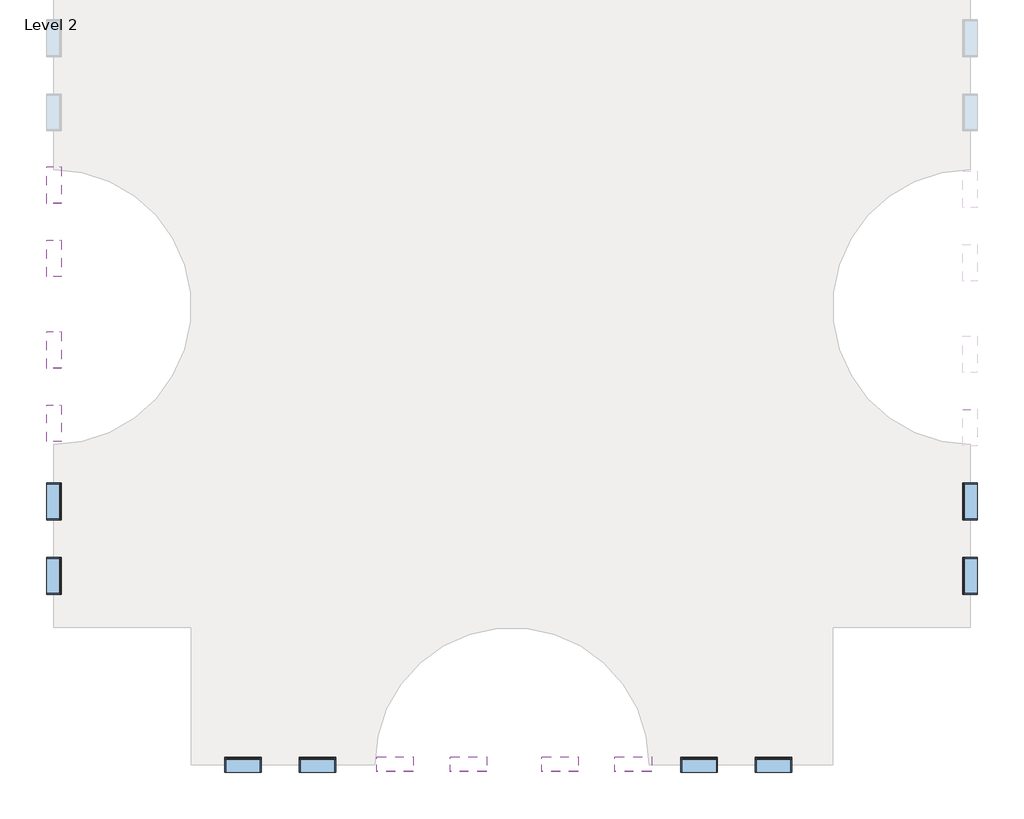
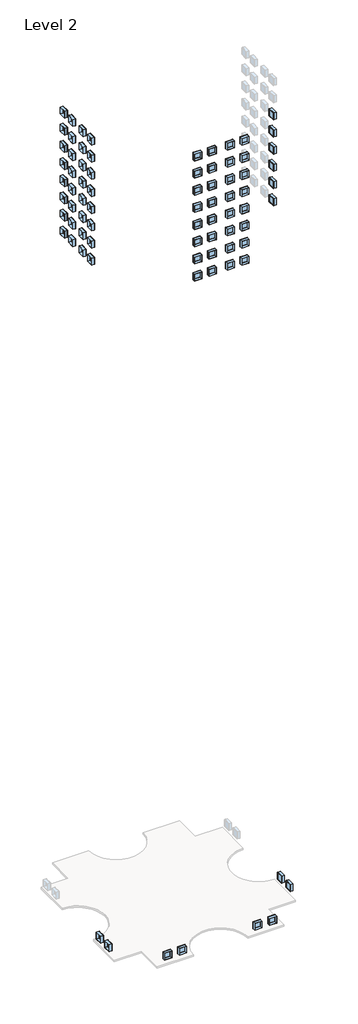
# One storey, part 1 of 2: 78 windows.
"""IFC4 building model written with IfcOpenShell, lengths in millimetres."""

import ifcopenshell
import ifcopenshell.guid

model = None  # the IFC model being written
_history = None  # IfcOwnerHistory: only IFC2X3 demands one
_inside = {}  # id of a spatial element -> (the spatial element, [elements in it])
_under = {}  # id of a project, library or spatial element -> (it, [spatial elements below it])
_declared = {}  # id of a project -> (the project, [libraries it declares])
_typed = {}  # id of a type object -> (the type object, [elements of that type])
_made_of = {}  # id of a material, layer set ... -> (it, [elements and type objects made of it])


def new_model(schema):
    """Start an empty IFC model of exactly this schema.

    Asked for "IFC4X3", IfcOpenShell would pick the latest addendum, in which some entities
    have other attributes; the version numbers below select the first issue.
    IFC2X3 requires an IfcOwnerHistory on every rooted entity: one is made here for all.
    """
    global model, _history
    if schema == "IFC4X3":
        model = ifcopenshell.file(schema_version=(4, 3, 0, 0))
    else:
        model = ifcopenshell.file(schema=schema)
    _inside.clear()
    _under.clear()
    _declared.clear()
    _typed.clear()
    _made_of.clear()
    _history = None
    if model.schema == "IFC2X3":
        org = make("IfcOrganization", Name="unknown")
        user = make(
            "IfcPersonAndOrganization",
            ThePerson=make("IfcPerson", FamilyName="unknown"),
            TheOrganization=org,
        )
        app = make(
            "IfcApplication",
            ApplicationDeveloper=org,
            Version="unknown",
            ApplicationFullName="unknown",
            ApplicationIdentifier="unknown",
        )
        _history = make(
            "IfcOwnerHistory",
            OwningUser=user,
            OwningApplication=app,
            ChangeAction="ADDED",
            CreationDate=0,
        )
    return model


def make(cls, **values):
    """One entity of the class cls with the attributes given. An attribute that is None is left unset."""
    return model.create_entity(
        cls, **{name: value for name, value in values.items() if value is not None}
    )


def rooted(cls, **values):
    """An entity with a GlobalId (a new one), such as an element, a storey or a relation."""
    return make(cls, GlobalId=ifcopenshell.guid.new(), OwnerHistory=_history, **values)


def si_unit(unit_type, name, prefix=None):
    """IfcSIUnit, for example si_unit("LENGTHUNIT", "METRE", prefix="MILLI")."""
    return make("IfcSIUnit", UnitType=unit_type, Prefix=prefix, Name=name)


def assignment(units):
    """IfcUnitAssignment: the units of a project."""
    return None if units is None else make("IfcUnitAssignment", Units=units)


def point(xyz):
    """IfcCartesianPoint."""
    return None if xyz is None else make("IfcCartesianPoint", Coordinates=xyz)


def direction(xyz):
    """IfcDirection."""
    return None if xyz is None else make("IfcDirection", DirectionRatios=xyz)


def frame(location, z_axis=None, x_axis=None):
    """IfcAxis2Placement3D, a coordinate frame: its origin and axes. An axis left out is left unset."""
    return make(
        "IfcAxis2Placement3D",
        Location=point(location),
        Axis=direction(z_axis),
        RefDirection=direction(x_axis),
    )


def origin():
    """The frame at (0, 0, 0) with its axes left unset."""
    return frame((0.0, 0.0, 0.0))


def place(relative_to, where):
    """IfcLocalPlacement: puts the frame where relative to a parent placement (None: the world)."""
    return make(
        "IfcLocalPlacement", PlacementRelTo=relative_to, RelativePlacement=where
    )


def context(
    kind, dimensions, precision=None, world=None, true_north=None, identifier=None
):
    """IfcGeometricRepresentationContext, for example the 3D "Model" context."""
    return make(
        "IfcGeometricRepresentationContext",
        ContextIdentifier=identifier,
        ContextType=kind,
        CoordinateSpaceDimension=dimensions,
        Precision=precision,
        WorldCoordinateSystem=world,
        TrueNorth=true_north,
    )


def project(units=None, contexts=None):
    """IfcProject with its units and contexts."""
    return rooted(
        "IfcProject",
        Name="project",
        RepresentationContexts=contexts,
        UnitsInContext=assignment(units),
    )


def spatial(cls, under=None, at=None, **own):
    """A site, building, storey or space (cls), placed at a placement, below another one or the project."""
    s = rooted(cls, ObjectPlacement=at, **own)
    if under is not None:
        _under.setdefault(under.id(), (under, []))[1].append(s)
    return s


def polyline(points):
    """IfcPolyline through the points."""
    return make("IfcPolyline", Points=[point(p) for p in points])


def outline(outer, holes=None, kind="AREA"):
    """IfcArbitraryClosedProfileDef: a profile drawn as a closed curve; with holes, ...WithVoids."""
    if holes is None:
        return make("IfcArbitraryClosedProfileDef", ProfileType=kind, OuterCurve=outer)
    return make(
        "IfcArbitraryProfileDefWithVoids",
        ProfileType=kind,
        OuterCurve=outer,
        InnerCurves=holes,
    )


def extrude(swept, where, along, depth):
    """IfcExtrudedAreaSolid: the profile swept, set in the frame where, extruded along a direction by depth."""
    return make(
        "IfcExtrudedAreaSolid",
        SweptArea=swept,
        Position=where,
        ExtrudedDirection=direction(along),
        Depth=depth,
    )


def shape(context_of_items, identifier, shape_type, items):
    """IfcShapeRepresentation: the items that make up one representation, for example the "Body"."""
    return make(
        "IfcShapeRepresentation",
        ContextOfItems=context_of_items,
        RepresentationIdentifier=identifier,
        RepresentationType=shape_type,
        Items=items,
    )


def source(mapping_origin, context_of_items, identifier, shape_type, items):
    """IfcRepresentationMap: a shape defined once, which mapped items show again and again."""
    return make(
        "IfcRepresentationMap",
        MappingOrigin=mapping_origin,
        MappedRepresentation=shape(context_of_items, identifier, shape_type, items),
    )


def transform(
    local_origin,
    x_axis=None,
    y_axis=None,
    z_axis=None,
    scale=None,
    scale2=None,
    scale3=None,
    uniform=True,
):
    """IfcCartesianTransformationOperator3D, or its non-uniform kind. x_axis, y_axis, z_axis: its Axis1, 2, 3."""
    if uniform:
        return make(
            "IfcCartesianTransformationOperator3D",
            Axis1=direction(x_axis),
            Axis2=direction(y_axis),
            LocalOrigin=point(local_origin),
            Scale=scale,
            Axis3=direction(z_axis),
        )
    return make(
        "IfcCartesianTransformationOperator3DnonUniform",
        Axis1=direction(x_axis),
        Axis2=direction(y_axis),
        LocalOrigin=point(local_origin),
        Scale=scale,
        Axis3=direction(z_axis),
        Scale2=scale2,
        Scale3=scale3,
    )


def mapped(mapping_source, mapping_target):
    """IfcMappedItem: shows the shape of a source again, moved by a transform."""
    return make(
        "IfcMappedItem", MappingSource=mapping_source, MappingTarget=mapping_target
    )


def made_of(thing, what):
    """Note that an element or type object is made of a material, layer set ...; save() writes the relation."""
    if what is not None:
        _made_of.setdefault(what.id(), (what, []))[1].append(thing)
    return thing


def element(
    cls,
    number,
    at=None,
    inside=None,
    cuts=None,
    type_object=None,
    material=None,
    context=None,
    identifier="Body",
    shape_type=None,
    held_by="IfcProductDefinitionShape",
    body=None,
    shapes=None,
    **own,
):
    """One element of the class cls, such as IfcWall. Its Tag is "e" and its number.

    at: its placement. inside: the storey or other place that contains it. cuts: it is an
    opening in that element (IfcRelVoidsElement). A single representation is given by context,
    identifier, shape_type and body (its items); several are given by shapes. held_by: the class
    of the entity that holds the representations. save() writes the other relations.
    """
    e = rooted(cls, Tag="e%d" % number, ObjectPlacement=at, **own)
    if body is not None:
        shapes = [shape(context, identifier, shape_type, body)]
    if shapes is not None:
        e.Representation = make(held_by, Representations=shapes)
    if inside is not None:
        _inside.setdefault(inside.id(), (inside, []))[1].append(e)
    if cuts is not None:
        rooted(
            "IfcRelVoidsElement", RelatingBuildingElement=cuts, RelatedOpeningElement=e
        )
    if type_object is not None:
        _typed.setdefault(type_object.id(), (type_object, []))[1].append(e)
    return made_of(e, material)


def aggregate(whole, parts):
    """IfcRelAggregates: a whole, such as a stair, and the parts it consists of."""
    return rooted("IfcRelAggregates", RelatingObject=whole, RelatedObjects=parts)


def save(model, path):
    """Write the relations noted so far, then the file.

    IfcRelAggregates (storeys below a building ...), IfcRelContainedInSpatialStructure (elements
    in a storey), IfcRelDefinesByType, IfcRelAssociatesMaterial and IfcRelDeclares: one each for
    every whole, place, type object, material and project.
    """
    for whole, parts in _under.values():
        aggregate(whole, parts)
    for where, things in _inside.values():
        rooted(
            "IfcRelContainedInSpatialStructure",
            RelatedElements=things,
            RelatingStructure=where,
        )
    for kind, things in _typed.values():
        rooted("IfcRelDefinesByType", RelatedObjects=things, RelatingType=kind)
    for what, things in _made_of.values():
        rooted("IfcRelAssociatesMaterial", RelatedObjects=things, RelatingMaterial=what)
    for by, libraries in _declared.values():
        rooted("IfcRelDeclares", RelatingContext=by, RelatedDefinitions=libraries)
    model.write(path)


def window_d0035ecf(model_context):
    return source(origin(), model_context, "Body", "SweptSolid", [
        extrude(outline(polyline([(508.0, 200.025), (-584.2, 200.025), (-584.2, 212.725), (508.0, 212.725), (508.0, 200.025)])), frame((0.0, 0.0, 977.9), z_axis=(0.0, 0.0, 1.0), x_axis=(1.0, 0.0, 0.0)), (0.0, 0.0, 1.0), 1092.2),
        extrude(outline(polyline([(2114.55, -628.65), (933.45, -628.65), (933.45, 552.45), (2114.55, 552.45), (2114.55, -628.65)]), holes=[polyline([(2070.1, -584.2), (2070.1, 508.0), (977.9, 508.0), (977.9, -584.2), (2070.1, -584.2)])]), frame((0.0, 184.15, 0.0), z_axis=(0.0, 1.0, 0.0), x_axis=(0.0, 0.0, 1.0)), (0.0, 0.0, 1.0), 44.45),
        extrude(outline(polyline([(2133.6, -647.7), (914.4, -647.7), (914.4, 571.5), (2133.6, 571.5), (2133.6, -647.7)]), holes=[polyline([(2101.85, -615.95), (2101.85, 539.75), (946.15, 539.75), (946.15, -615.95), (2101.85, -615.95)])]), frame((0.0, -247.65, 0.0), z_axis=(0.0, 1.0, 0.0), x_axis=(0.0, 0.0, 1.0)), (0.0, 0.0, 1.0), 431.8),
        extrude(outline(polyline([(2133.6, 571.5), (2133.6, -647.7), (914.4, -647.7), (914.4, 571.5), (2133.6, 571.5)]), holes=[polyline([(2114.55, 552.45), (933.45, 552.45), (933.45, -628.65), (2114.55, -628.65), (2114.55, 552.45)])]), frame((0.0, 184.15, 0.0), z_axis=(0.0, 1.0, 0.0), x_axis=(0.0, 0.0, 1.0)), (0.0, 0.0, 1.0), 63.5),
    ])


def window_d434eb62(model_context):
    return source(origin(), model_context, "Body", "SweptSolid", [
        extrude(outline(polyline([(508.0, -200.025), (508.0, -212.725), (-584.2, -212.725), (-584.2, -200.025), (508.0, -200.025)])), frame((0.0, 0.0, 977.9), z_axis=(0.0, 0.0, 1.0), x_axis=(1.0, 0.0, 0.0)), (0.0, 0.0, 1.0), 1092.2),
        extrude(outline(polyline([(2114.55, -628.65), (933.45, -628.65), (933.45, 552.45), (2114.55, 552.45), (2114.55, -628.65)]), holes=[polyline([(2070.1, -584.2), (2070.1, 508.0), (977.9, 508.0), (977.9, -584.2), (2070.1, -584.2)])]), frame((0.0, -228.6, 0.0), z_axis=(0.0, 1.0, 0.0), x_axis=(0.0, 0.0, 1.0)), (0.0, 0.0, 1.0), 44.45),
        extrude(outline(polyline([(2133.6, -647.7), (914.4, -647.7), (914.4, 571.5), (2133.6, 571.5), (2133.6, -647.7)]), holes=[polyline([(2101.85, -615.95), (2101.85, 539.75), (946.15, 539.75), (946.15, -615.95), (2101.85, -615.95)])]), frame((0.0, -184.15, 0.0), z_axis=(0.0, 1.0, 0.0), x_axis=(0.0, 0.0, 1.0)), (0.0, 0.0, 1.0), 431.8),
        extrude(outline(polyline([(2133.6, 571.5), (2133.6, -647.7), (914.4, -647.7), (914.4, 571.5), (2133.6, 571.5)]), holes=[polyline([(2114.55, 552.45), (933.45, 552.45), (933.45, -628.65), (2114.55, -628.65), (2114.55, 552.45)])]), frame((0.0, -247.65, 0.0), z_axis=(0.0, 1.0, 0.0), x_axis=(0.0, 0.0, 1.0)), (0.0, 0.0, 1.0), 63.5),
    ])


model = new_model("IFC4")

# Units and contexts
model_context = context("Model", 3, world=origin())
ifc_project = project(units=[si_unit("LENGTHUNIT", "METRE", prefix="MILLI")], contexts=[model_context])

# Site, building, storey
site = spatial("IfcSite", under=ifc_project)
building = spatial("IfcBuilding", under=site)
storey = spatial("IfcBuildingStorey", under=building, Name="Level 2", Elevation=3048.0)

# Windows
placement = place(None, origin())
window_shape = window_d0035ecf(model_context)
element("IfcWindow", 1, ObjectType="Fixed : 48\" x 48\"", at=placement, inside=storey, context=model_context, shape_type="MappedRepresentation", body=[
    mapped(window_shape, transform((-11719.1879456, -15175.1729277, 3048.0), x_axis=(0.0, -1.0, 0.0), y_axis=(1.0, 0.0, 0.0), z_axis=(0.0, 0.0, 1.0))),
])
element("IfcWindow", 2, ObjectType="Fixed : 48\" x 48\"", at=placement, inside=storey, context=model_context, shape_type="MappedRepresentation", body=[
    mapped(window_shape, transform((-2918.0879456, -21425.1615453, 3048.0), x_axis=(1.0, 0.0, 0.0), y_axis=(0.0, 1.0, 0.0), z_axis=(0.0, 0.0, 1.0))),
])
element("IfcWindow", 3, ObjectType="Fixed : 48\" x 48\"", at=placement, inside=storey, context=model_context, shape_type="MappedRepresentation", body=[
    mapped(window_shape, transform((18754.4620544, -12624.0615453, 3048.0), x_axis=(0.0, 1.0, 0.0), y_axis=(-1.0, 0.0, 0.0), z_axis=(0.0, 0.0, 1.0))),
])
element("IfcWindow", 4, ObjectType="Fixed : 48\" x 48\"", at=placement, inside=storey, context=model_context, shape_type="MappedRepresentation", body=[
    mapped(window_shape, transform((12256.8234368, -21425.1615453, 3048.0), x_axis=(1.0, 0.0, 0.0), y_axis=(0.0, 1.0, 0.0), z_axis=(0.0, 0.0, 1.0))),
])
element("IfcWindow", 5, ObjectType="Fixed : 48\" x 48\"", at=placement, inside=storey, context=model_context, shape_type="MappedRepresentation", body=[
    mapped(window_shape, transform((18754.4620544, -10185.6615453, 121920.0), x_axis=(0.0, 1.0, 0.0), y_axis=(-1.0, 0.0, 0.0), z_axis=(0.0, 0.0, 1.0))),
])
element("IfcWindow", 6, ObjectType="Fixed : 48\" x 48\"", at=placement, inside=storey, context=model_context, shape_type="MappedRepresentation", body=[
    mapped(window_shape, transform((18754.4620544, -10185.6615453, 124968.0), x_axis=(0.0, 1.0, 0.0), y_axis=(-1.0, 0.0, 0.0), z_axis=(0.0, 0.0, 1.0))),
])
element("IfcWindow", 7, ObjectType="Fixed : 48\" x 48\"", at=placement, inside=storey, context=model_context, shape_type="MappedRepresentation", body=[
    mapped(window_shape, transform((18754.4620544, -10185.6615453, 128016.0), x_axis=(0.0, 1.0, 0.0), y_axis=(-1.0, 0.0, 0.0), z_axis=(0.0, 0.0, 1.0))),
])
element("IfcWindow", 8, ObjectType="Fixed : 48\" x 48\"", at=placement, inside=storey, context=model_context, shape_type="MappedRepresentation", body=[
    mapped(window_shape, transform((18754.4620544, -10185.6615453, 131064.0), x_axis=(0.0, 1.0, 0.0), y_axis=(-1.0, 0.0, 0.0), z_axis=(0.0, 0.0, 1.0))),
])
element("IfcWindow", 9, ObjectType="Fixed : 48\" x 48\"", at=placement, inside=storey, context=model_context, shape_type="MappedRepresentation", body=[
    mapped(window_shape, transform((18754.4620544, -10185.6615453, 134112.0), x_axis=(0.0, 1.0, 0.0), y_axis=(-1.0, 0.0, 0.0), z_axis=(0.0, 0.0, 1.0))),
])
element("IfcWindow", 10, ObjectType="Fixed : 48\" x 48\"", at=placement, inside=storey, context=model_context, shape_type="MappedRepresentation", body=[
    mapped(window_shape, transform((18754.4620544, -10185.6615453, 137160.0), x_axis=(0.0, 1.0, 0.0), y_axis=(-1.0, 0.0, 0.0), z_axis=(0.0, 0.0, 1.0))),
])
element("IfcWindow", 11, ObjectType="Fixed : 48\" x 48\"", at=placement, inside=storey, context=model_context, shape_type="MappedRepresentation", body=[
    mapped(window_shape, transform((-11719.1879456, -2191.0115453, 121920.0), x_axis=(0.0, -1.0, 0.0), y_axis=(1.0, 0.0, 0.0), z_axis=(0.0, 0.0, 1.0))),
])
element("IfcWindow", 12, ObjectType="Fixed : 48\" x 48\"", at=placement, inside=storey, context=model_context, shape_type="MappedRepresentation", body=[
    mapped(window_shape, transform((-11719.1879456, -4629.4115453, 121920.0), x_axis=(0.0, -1.0, 0.0), y_axis=(1.0, 0.0, 0.0), z_axis=(0.0, 0.0, 1.0))),
])
element("IfcWindow", 13, ObjectType="Fixed : 48\" x 48\"", at=placement, inside=storey, context=model_context, shape_type="MappedRepresentation", body=[
    mapped(window_shape, transform((-11719.1879456, -7677.4115453, 121920.0), x_axis=(0.0, -1.0, 0.0), y_axis=(1.0, 0.0, 0.0), z_axis=(0.0, 0.0, 1.0))),
])
element("IfcWindow", 14, ObjectType="Fixed : 48\" x 48\"", at=placement, inside=storey, context=model_context, shape_type="MappedRepresentation", body=[
    mapped(window_shape, transform((-11719.1879456, -10115.8115453, 121920.0), x_axis=(0.0, -1.0, 0.0), y_axis=(1.0, 0.0, 0.0), z_axis=(0.0, 0.0, 1.0))),
])
element("IfcWindow", 15, ObjectType="Fixed : 48\" x 48\"", at=placement, inside=storey, context=model_context, shape_type="MappedRepresentation", body=[
    mapped(window_shape, transform((-11719.1879456, -2191.0115453, 124968.0), x_axis=(0.0, -1.0, 0.0), y_axis=(1.0, 0.0, 0.0), z_axis=(0.0, 0.0, 1.0))),
])
element("IfcWindow", 16, ObjectType="Fixed : 48\" x 48\"", at=placement, inside=storey, context=model_context, shape_type="MappedRepresentation", body=[
    mapped(window_shape, transform((-11719.1879456, -4629.4115453, 124968.0), x_axis=(0.0, -1.0, 0.0), y_axis=(1.0, 0.0, 0.0), z_axis=(0.0, 0.0, 1.0))),
])
element("IfcWindow", 17, ObjectType="Fixed : 48\" x 48\"", at=placement, inside=storey, context=model_context, shape_type="MappedRepresentation", body=[
    mapped(window_shape, transform((-11719.1879456, -7677.4115453, 124968.0), x_axis=(0.0, -1.0, 0.0), y_axis=(1.0, 0.0, 0.0), z_axis=(0.0, 0.0, 1.0))),
])
element("IfcWindow", 18, ObjectType="Fixed : 48\" x 48\"", at=placement, inside=storey, context=model_context, shape_type="MappedRepresentation", body=[
    mapped(window_shape, transform((-11719.1879456, -10115.8115453, 124968.0), x_axis=(0.0, -1.0, 0.0), y_axis=(1.0, 0.0, 0.0), z_axis=(0.0, 0.0, 1.0))),
])
element("IfcWindow", 19, ObjectType="Fixed : 48\" x 48\"", at=placement, inside=storey, context=model_context, shape_type="MappedRepresentation", body=[
    mapped(window_shape, transform((-11719.1879456, -2191.0115453, 128016.0), x_axis=(0.0, -1.0, 0.0), y_axis=(1.0, 0.0, 0.0), z_axis=(0.0, 0.0, 1.0))),
])
element("IfcWindow", 20, ObjectType="Fixed : 48\" x 48\"", at=placement, inside=storey, context=model_context, shape_type="MappedRepresentation", body=[
    mapped(window_shape, transform((-11719.1879456, -4629.4115453, 128016.0), x_axis=(0.0, -1.0, 0.0), y_axis=(1.0, 0.0, 0.0), z_axis=(0.0, 0.0, 1.0))),
])
element("IfcWindow", 21, ObjectType="Fixed : 48\" x 48\"", at=placement, inside=storey, context=model_context, shape_type="MappedRepresentation", body=[
    mapped(window_shape, transform((-11719.1879456, -7677.4115453, 128016.0), x_axis=(0.0, -1.0, 0.0), y_axis=(1.0, 0.0, 0.0), z_axis=(0.0, 0.0, 1.0))),
])
element("IfcWindow", 22, ObjectType="Fixed : 48\" x 48\"", at=placement, inside=storey, context=model_context, shape_type="MappedRepresentation", body=[
    mapped(window_shape, transform((-11719.1879456, -10115.8115453, 128016.0), x_axis=(0.0, -1.0, 0.0), y_axis=(1.0, 0.0, 0.0), z_axis=(0.0, 0.0, 1.0))),
])
element("IfcWindow", 23, ObjectType="Fixed : 48\" x 48\"", at=placement, inside=storey, context=model_context, shape_type="MappedRepresentation", body=[
    mapped(window_shape, transform((-11719.1879456, -2191.0115453, 131064.0), x_axis=(0.0, -1.0, 0.0), y_axis=(1.0, 0.0, 0.0), z_axis=(0.0, 0.0, 1.0))),
])
element("IfcWindow", 24, ObjectType="Fixed : 48\" x 48\"", at=placement, inside=storey, context=model_context, shape_type="MappedRepresentation", body=[
    mapped(window_shape, transform((-11719.1879456, -4629.4115453, 131064.0), x_axis=(0.0, -1.0, 0.0), y_axis=(1.0, 0.0, 0.0), z_axis=(0.0, 0.0, 1.0))),
])
element("IfcWindow", 25, ObjectType="Fixed : 48\" x 48\"", at=placement, inside=storey, context=model_context, shape_type="MappedRepresentation", body=[
    mapped(window_shape, transform((-11719.1879456, -7677.4115453, 131064.0), x_axis=(0.0, -1.0, 0.0), y_axis=(1.0, 0.0, 0.0), z_axis=(0.0, 0.0, 1.0))),
])
element("IfcWindow", 26, ObjectType="Fixed : 48\" x 48\"", at=placement, inside=storey, context=model_context, shape_type="MappedRepresentation", body=[
    mapped(window_shape, transform((-11719.1879456, -10115.8115453, 131064.0), x_axis=(0.0, -1.0, 0.0), y_axis=(1.0, 0.0, 0.0), z_axis=(0.0, 0.0, 1.0))),
])
element("IfcWindow", 27, ObjectType="Fixed : 48\" x 48\"", at=placement, inside=storey, context=model_context, shape_type="MappedRepresentation", body=[
    mapped(window_shape, transform((-11719.1879456, -2191.0115453, 134112.0), x_axis=(0.0, -1.0, 0.0), y_axis=(1.0, 0.0, 0.0), z_axis=(0.0, 0.0, 1.0))),
])
element("IfcWindow", 28, ObjectType="Fixed : 48\" x 48\"", at=placement, inside=storey, context=model_context, shape_type="MappedRepresentation", body=[
    mapped(window_shape, transform((-11719.1879456, -4629.4115453, 134112.0), x_axis=(0.0, -1.0, 0.0), y_axis=(1.0, 0.0, 0.0), z_axis=(0.0, 0.0, 1.0))),
])
element("IfcWindow", 29, ObjectType="Fixed : 48\" x 48\"", at=placement, inside=storey, context=model_context, shape_type="MappedRepresentation", body=[
    mapped(window_shape, transform((-11719.1879456, -7677.4115453, 134112.0), x_axis=(0.0, -1.0, 0.0), y_axis=(1.0, 0.0, 0.0), z_axis=(0.0, 0.0, 1.0))),
])
element("IfcWindow", 30, ObjectType="Fixed : 48\" x 48\"", at=placement, inside=storey, context=model_context, shape_type="MappedRepresentation", body=[
    mapped(window_shape, transform((-11719.1879456, -10115.8115453, 134112.0), x_axis=(0.0, -1.0, 0.0), y_axis=(1.0, 0.0, 0.0), z_axis=(0.0, 0.0, 1.0))),
])
element("IfcWindow", 31, ObjectType="Fixed : 48\" x 48\"", at=placement, inside=storey, context=model_context, shape_type="MappedRepresentation", body=[
    mapped(window_shape, transform((-11719.1879456, -2191.0115453, 137160.0), x_axis=(0.0, -1.0, 0.0), y_axis=(1.0, 0.0, 0.0), z_axis=(0.0, 0.0, 1.0))),
])
element("IfcWindow", 32, ObjectType="Fixed : 48\" x 48\"", at=placement, inside=storey, context=model_context, shape_type="MappedRepresentation", body=[
    mapped(window_shape, transform((-11719.1879456, -4629.4115453, 137160.0), x_axis=(0.0, -1.0, 0.0), y_axis=(1.0, 0.0, 0.0), z_axis=(0.0, 0.0, 1.0))),
])
element("IfcWindow", 33, ObjectType="Fixed : 48\" x 48\"", at=placement, inside=storey, context=model_context, shape_type="MappedRepresentation", body=[
    mapped(window_shape, transform((-11719.1879456, -7677.4115453, 137160.0), x_axis=(0.0, -1.0, 0.0), y_axis=(1.0, 0.0, 0.0), z_axis=(0.0, 0.0, 1.0))),
])
element("IfcWindow", 34, ObjectType="Fixed : 48\" x 48\"", at=placement, inside=storey, context=model_context, shape_type="MappedRepresentation", body=[
    mapped(window_shape, transform((-11719.1879456, -10115.8115453, 137160.0), x_axis=(0.0, -1.0, 0.0), y_axis=(1.0, 0.0, 0.0), z_axis=(0.0, 0.0, 1.0))),
])
element("IfcWindow", 35, ObjectType="Fixed : 48\" x 48\"", at=placement, inside=storey, context=model_context, shape_type="MappedRepresentation", body=[
    mapped(window_shape, transform((-11719.1879456, -2191.0115453, 140208.0), x_axis=(0.0, -1.0, 0.0), y_axis=(1.0, 0.0, 0.0), z_axis=(0.0, 0.0, 1.0))),
])
element("IfcWindow", 36, ObjectType="Fixed : 48\" x 48\"", at=placement, inside=storey, context=model_context, shape_type="MappedRepresentation", body=[
    mapped(window_shape, transform((-11719.1879456, -4629.4115453, 140208.0), x_axis=(0.0, -1.0, 0.0), y_axis=(1.0, 0.0, 0.0), z_axis=(0.0, 0.0, 1.0))),
])
element("IfcWindow", 37, ObjectType="Fixed : 48\" x 48\"", at=placement, inside=storey, context=model_context, shape_type="MappedRepresentation", body=[
    mapped(window_shape, transform((-11719.1879456, -7677.4115453, 140208.0), x_axis=(0.0, -1.0, 0.0), y_axis=(1.0, 0.0, 0.0), z_axis=(0.0, 0.0, 1.0))),
])
element("IfcWindow", 38, ObjectType="Fixed : 48\" x 48\"", at=placement, inside=storey, context=model_context, shape_type="MappedRepresentation", body=[
    mapped(window_shape, transform((-11719.1879456, -10115.8115453, 140208.0), x_axis=(0.0, -1.0, 0.0), y_axis=(1.0, 0.0, 0.0), z_axis=(0.0, 0.0, 1.0))),
])
element("IfcWindow", 39, ObjectType="Fixed : 48\" x 48\"", at=placement, inside=storey, context=model_context, shape_type="MappedRepresentation", body=[
    mapped(window_shape, transform((-11719.1879456, -2191.0115453, 143256.0), x_axis=(0.0, -1.0, 0.0), y_axis=(1.0, 0.0, 0.0), z_axis=(0.0, 0.0, 1.0))),
])
element("IfcWindow", 40, ObjectType="Fixed : 48\" x 48\"", at=placement, inside=storey, context=model_context, shape_type="MappedRepresentation", body=[
    mapped(window_shape, transform((-11719.1879456, -4629.4115453, 143256.0), x_axis=(0.0, -1.0, 0.0), y_axis=(1.0, 0.0, 0.0), z_axis=(0.0, 0.0, 1.0))),
])
element("IfcWindow", 41, ObjectType="Fixed : 48\" x 48\"", at=placement, inside=storey, context=model_context, shape_type="MappedRepresentation", body=[
    mapped(window_shape, transform((-11719.1879456, -7677.4115453, 143256.0), x_axis=(0.0, -1.0, 0.0), y_axis=(1.0, 0.0, 0.0), z_axis=(0.0, 0.0, 1.0))),
])
element("IfcWindow", 42, ObjectType="Fixed : 48\" x 48\"", at=placement, inside=storey, context=model_context, shape_type="MappedRepresentation", body=[
    mapped(window_shape, transform((-11719.1879456, -10115.8115453, 143256.0), x_axis=(0.0, -1.0, 0.0), y_axis=(1.0, 0.0, 0.0), z_axis=(0.0, 0.0, 1.0))),
])
window_2_shape = window_d434eb62(model_context)
element("IfcWindow", 43, ObjectType="Fixed : 48\" x 48\"", at=placement, inside=storey, context=model_context, shape_type="MappedRepresentation", body=[
    mapped(window_2_shape, transform((-11719.1879456, -12624.0615453, 3048.0), x_axis=(0.0, 1.0, 0.0), y_axis=(-1.0, 0.0, 0.0), z_axis=(0.0, 0.0, 1.0))),
])
element("IfcWindow", 44, ObjectType="Fixed : 48\" x 48\"", at=placement, inside=storey, context=model_context, shape_type="MappedRepresentation", body=[
    mapped(window_2_shape, transform((-5469.1993281, -21425.1615453, 3048.0), x_axis=(-1.0, 0.0, 0.0), y_axis=(0.0, -1.0, 0.0), z_axis=(0.0, 0.0, 1.0))),
])
element("IfcWindow", 45, ObjectType="Fixed : 48\" x 48\"", at=placement, inside=storey, context=model_context, shape_type="MappedRepresentation", body=[
    mapped(window_2_shape, transform((18754.4620544, -15175.1729277, 3048.0), x_axis=(0.0, -1.0, 0.0), y_axis=(1.0, 0.0, 0.0), z_axis=(0.0, 0.0, 1.0))),
])
element("IfcWindow", 46, ObjectType="Fixed : 48\" x 48\"", at=placement, inside=storey, context=model_context, shape_type="MappedRepresentation", body=[
    mapped(window_2_shape, transform((9705.7120544, -21425.1615453, 3048.0), x_axis=(-1.0, 0.0, 0.0), y_axis=(0.0, -1.0, 0.0), z_axis=(0.0, 0.0, 1.0))),
])
element("IfcWindow", 47, ObjectType="Fixed : 48\" x 48\"", at=placement, inside=storey, context=model_context, shape_type="MappedRepresentation", body=[
    mapped(window_2_shape, transform((7514.9620544, -21425.1615453, 121920.0), x_axis=(-1.0, 0.0, 0.0), y_axis=(0.0, -1.0, 0.0), z_axis=(0.0, 0.0, 1.0))),
])
element("IfcWindow", 48, ObjectType="Fixed : 48\" x 48\"", at=placement, inside=storey, context=model_context, shape_type="MappedRepresentation", body=[
    mapped(window_2_shape, transform((5076.5620544, -21425.1615453, 121920.0), x_axis=(-1.0, 0.0, 0.0), y_axis=(0.0, -1.0, 0.0), z_axis=(0.0, 0.0, 1.0))),
])
element("IfcWindow", 49, ObjectType="Fixed : 48\" x 48\"", at=placement, inside=storey, context=model_context, shape_type="MappedRepresentation", body=[
    mapped(window_2_shape, transform((2028.5620544, -21425.1615453, 121920.0), x_axis=(-1.0, 0.0, 0.0), y_axis=(0.0, -1.0, 0.0), z_axis=(0.0, 0.0, 1.0))),
])
element("IfcWindow", 50, ObjectType="Fixed : 48\" x 48\"", at=placement, inside=storey, context=model_context, shape_type="MappedRepresentation", body=[
    mapped(window_2_shape, transform((-409.8379456, -21425.1615453, 121920.0), x_axis=(-1.0, 0.0, 0.0), y_axis=(0.0, -1.0, 0.0), z_axis=(0.0, 0.0, 1.0))),
])
element("IfcWindow", 51, ObjectType="Fixed : 48\" x 48\"", at=placement, inside=storey, context=model_context, shape_type="MappedRepresentation", body=[
    mapped(window_2_shape, transform((7514.9620544, -21425.1615453, 124968.0), x_axis=(-1.0, 0.0, 0.0), y_axis=(0.0, -1.0, 0.0), z_axis=(0.0, 0.0, 1.0))),
])
element("IfcWindow", 52, ObjectType="Fixed : 48\" x 48\"", at=placement, inside=storey, context=model_context, shape_type="MappedRepresentation", body=[
    mapped(window_2_shape, transform((5076.5620544, -21425.1615453, 124968.0), x_axis=(-1.0, 0.0, 0.0), y_axis=(0.0, -1.0, 0.0), z_axis=(0.0, 0.0, 1.0))),
])
element("IfcWindow", 53, ObjectType="Fixed : 48\" x 48\"", at=placement, inside=storey, context=model_context, shape_type="MappedRepresentation", body=[
    mapped(window_2_shape, transform((2028.5620544, -21425.1615453, 124968.0), x_axis=(-1.0, 0.0, 0.0), y_axis=(0.0, -1.0, 0.0), z_axis=(0.0, 0.0, 1.0))),
])
element("IfcWindow", 54, ObjectType="Fixed : 48\" x 48\"", at=placement, inside=storey, context=model_context, shape_type="MappedRepresentation", body=[
    mapped(window_2_shape, transform((-409.8379456, -21425.1615453, 124968.0), x_axis=(-1.0, 0.0, 0.0), y_axis=(0.0, -1.0, 0.0), z_axis=(0.0, 0.0, 1.0))),
])
element("IfcWindow", 55, ObjectType="Fixed : 48\" x 48\"", at=placement, inside=storey, context=model_context, shape_type="MappedRepresentation", body=[
    mapped(window_2_shape, transform((7514.9620544, -21425.1615453, 128016.0), x_axis=(-1.0, 0.0, 0.0), y_axis=(0.0, -1.0, 0.0), z_axis=(0.0, 0.0, 1.0))),
])
element("IfcWindow", 56, ObjectType="Fixed : 48\" x 48\"", at=placement, inside=storey, context=model_context, shape_type="MappedRepresentation", body=[
    mapped(window_2_shape, transform((5076.5620544, -21425.1615453, 128016.0), x_axis=(-1.0, 0.0, 0.0), y_axis=(0.0, -1.0, 0.0), z_axis=(0.0, 0.0, 1.0))),
])
element("IfcWindow", 57, ObjectType="Fixed : 48\" x 48\"", at=placement, inside=storey, context=model_context, shape_type="MappedRepresentation", body=[
    mapped(window_2_shape, transform((2028.5620544, -21425.1615453, 128016.0), x_axis=(-1.0, 0.0, 0.0), y_axis=(0.0, -1.0, 0.0), z_axis=(0.0, 0.0, 1.0))),
])
element("IfcWindow", 58, ObjectType="Fixed : 48\" x 48\"", at=placement, inside=storey, context=model_context, shape_type="MappedRepresentation", body=[
    mapped(window_2_shape, transform((-409.8379456, -21425.1615453, 128016.0), x_axis=(-1.0, 0.0, 0.0), y_axis=(0.0, -1.0, 0.0), z_axis=(0.0, 0.0, 1.0))),
])
element("IfcWindow", 59, ObjectType="Fixed : 48\" x 48\"", at=placement, inside=storey, context=model_context, shape_type="MappedRepresentation", body=[
    mapped(window_2_shape, transform((7514.9620544, -21425.1615453, 131064.0), x_axis=(-1.0, 0.0, 0.0), y_axis=(0.0, -1.0, 0.0), z_axis=(0.0, 0.0, 1.0))),
])
element("IfcWindow", 60, ObjectType="Fixed : 48\" x 48\"", at=placement, inside=storey, context=model_context, shape_type="MappedRepresentation", body=[
    mapped(window_2_shape, transform((5076.5620544, -21425.1615453, 131064.0), x_axis=(-1.0, 0.0, 0.0), y_axis=(0.0, -1.0, 0.0), z_axis=(0.0, 0.0, 1.0))),
])
element("IfcWindow", 61, ObjectType="Fixed : 48\" x 48\"", at=placement, inside=storey, context=model_context, shape_type="MappedRepresentation", body=[
    mapped(window_2_shape, transform((2028.5620544, -21425.1615453, 131064.0), x_axis=(-1.0, 0.0, 0.0), y_axis=(0.0, -1.0, 0.0), z_axis=(0.0, 0.0, 1.0))),
])
element("IfcWindow", 62, ObjectType="Fixed : 48\" x 48\"", at=placement, inside=storey, context=model_context, shape_type="MappedRepresentation", body=[
    mapped(window_2_shape, transform((-409.8379456, -21425.1615453, 131064.0), x_axis=(-1.0, 0.0, 0.0), y_axis=(0.0, -1.0, 0.0), z_axis=(0.0, 0.0, 1.0))),
])
element("IfcWindow", 63, ObjectType="Fixed : 48\" x 48\"", at=placement, inside=storey, context=model_context, shape_type="MappedRepresentation", body=[
    mapped(window_2_shape, transform((7514.9620544, -21425.1615453, 134112.0), x_axis=(-1.0, 0.0, 0.0), y_axis=(0.0, -1.0, 0.0), z_axis=(0.0, 0.0, 1.0))),
])
element("IfcWindow", 64, ObjectType="Fixed : 48\" x 48\"", at=placement, inside=storey, context=model_context, shape_type="MappedRepresentation", body=[
    mapped(window_2_shape, transform((5076.5620544, -21425.1615453, 134112.0), x_axis=(-1.0, 0.0, 0.0), y_axis=(0.0, -1.0, 0.0), z_axis=(0.0, 0.0, 1.0))),
])
element("IfcWindow", 65, ObjectType="Fixed : 48\" x 48\"", at=placement, inside=storey, context=model_context, shape_type="MappedRepresentation", body=[
    mapped(window_2_shape, transform((2028.5620544, -21425.1615453, 134112.0), x_axis=(-1.0, 0.0, 0.0), y_axis=(0.0, -1.0, 0.0), z_axis=(0.0, 0.0, 1.0))),
])
element("IfcWindow", 66, ObjectType="Fixed : 48\" x 48\"", at=placement, inside=storey, context=model_context, shape_type="MappedRepresentation", body=[
    mapped(window_2_shape, transform((-409.8379456, -21425.1615453, 134112.0), x_axis=(-1.0, 0.0, 0.0), y_axis=(0.0, -1.0, 0.0), z_axis=(0.0, 0.0, 1.0))),
])
element("IfcWindow", 67, ObjectType="Fixed : 48\" x 48\"", at=placement, inside=storey, context=model_context, shape_type="MappedRepresentation", body=[
    mapped(window_2_shape, transform((7514.9620544, -21425.1615453, 137160.0), x_axis=(-1.0, 0.0, 0.0), y_axis=(0.0, -1.0, 0.0), z_axis=(0.0, 0.0, 1.0))),
])
element("IfcWindow", 68, ObjectType="Fixed : 48\" x 48\"", at=placement, inside=storey, context=model_context, shape_type="MappedRepresentation", body=[
    mapped(window_2_shape, transform((5076.5620544, -21425.1615453, 137160.0), x_axis=(-1.0, 0.0, 0.0), y_axis=(0.0, -1.0, 0.0), z_axis=(0.0, 0.0, 1.0))),
])
element("IfcWindow", 69, ObjectType="Fixed : 48\" x 48\"", at=placement, inside=storey, context=model_context, shape_type="MappedRepresentation", body=[
    mapped(window_2_shape, transform((2028.5620544, -21425.1615453, 137160.0), x_axis=(-1.0, 0.0, 0.0), y_axis=(0.0, -1.0, 0.0), z_axis=(0.0, 0.0, 1.0))),
])
element("IfcWindow", 70, ObjectType="Fixed : 48\" x 48\"", at=placement, inside=storey, context=model_context, shape_type="MappedRepresentation", body=[
    mapped(window_2_shape, transform((-409.8379456, -21425.1615453, 137160.0), x_axis=(-1.0, 0.0, 0.0), y_axis=(0.0, -1.0, 0.0), z_axis=(0.0, 0.0, 1.0))),
])
element("IfcWindow", 71, ObjectType="Fixed : 48\" x 48\"", at=placement, inside=storey, context=model_context, shape_type="MappedRepresentation", body=[
    mapped(window_2_shape, transform((7514.9620544, -21425.1615453, 140208.0), x_axis=(-1.0, 0.0, 0.0), y_axis=(0.0, -1.0, 0.0), z_axis=(0.0, 0.0, 1.0))),
])
element("IfcWindow", 72, ObjectType="Fixed : 48\" x 48\"", at=placement, inside=storey, context=model_context, shape_type="MappedRepresentation", body=[
    mapped(window_2_shape, transform((5076.5620544, -21425.1615453, 140208.0), x_axis=(-1.0, 0.0, 0.0), y_axis=(0.0, -1.0, 0.0), z_axis=(0.0, 0.0, 1.0))),
])
element("IfcWindow", 73, ObjectType="Fixed : 48\" x 48\"", at=placement, inside=storey, context=model_context, shape_type="MappedRepresentation", body=[
    mapped(window_2_shape, transform((2028.5620544, -21425.1615453, 140208.0), x_axis=(-1.0, 0.0, 0.0), y_axis=(0.0, -1.0, 0.0), z_axis=(0.0, 0.0, 1.0))),
])
element("IfcWindow", 74, ObjectType="Fixed : 48\" x 48\"", at=placement, inside=storey, context=model_context, shape_type="MappedRepresentation", body=[
    mapped(window_2_shape, transform((-409.8379456, -21425.1615453, 140208.0), x_axis=(-1.0, 0.0, 0.0), y_axis=(0.0, -1.0, 0.0), z_axis=(0.0, 0.0, 1.0))),
])
element("IfcWindow", 75, ObjectType="Fixed : 48\" x 48\"", at=placement, inside=storey, context=model_context, shape_type="MappedRepresentation", body=[
    mapped(window_2_shape, transform((7514.9620544, -21425.1615453, 143256.0), x_axis=(-1.0, 0.0, 0.0), y_axis=(0.0, -1.0, 0.0), z_axis=(0.0, 0.0, 1.0))),
])
element("IfcWindow", 76, ObjectType="Fixed : 48\" x 48\"", at=placement, inside=storey, context=model_context, shape_type="MappedRepresentation", body=[
    mapped(window_2_shape, transform((5076.5620544, -21425.1615453, 143256.0), x_axis=(-1.0, 0.0, 0.0), y_axis=(0.0, -1.0, 0.0), z_axis=(0.0, 0.0, 1.0))),
])
element("IfcWindow", 77, ObjectType="Fixed : 48\" x 48\"", at=placement, inside=storey, context=model_context, shape_type="MappedRepresentation", body=[
    mapped(window_2_shape, transform((2028.5620544, -21425.1615453, 143256.0), x_axis=(-1.0, 0.0, 0.0), y_axis=(0.0, -1.0, 0.0), z_axis=(0.0, 0.0, 1.0))),
])
element("IfcWindow", 78, ObjectType="Fixed : 48\" x 48\"", at=placement, inside=storey, context=model_context, shape_type="MappedRepresentation", body=[
    mapped(window_2_shape, transform((-409.8379456, -21425.1615453, 143256.0), x_axis=(-1.0, 0.0, 0.0), y_axis=(0.0, -1.0, 0.0), z_axis=(0.0, 0.0, 1.0))),
])

save(model, "model.ifc")
